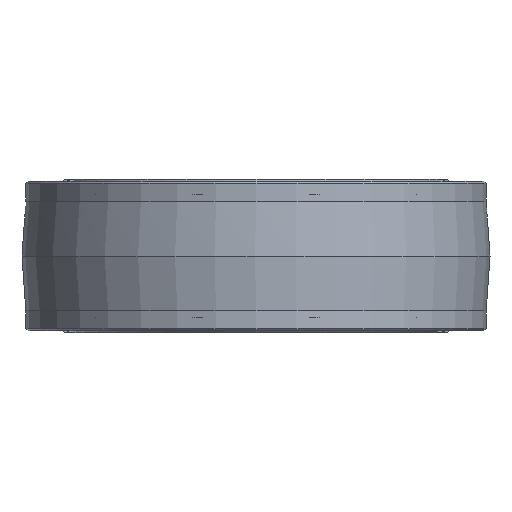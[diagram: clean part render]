
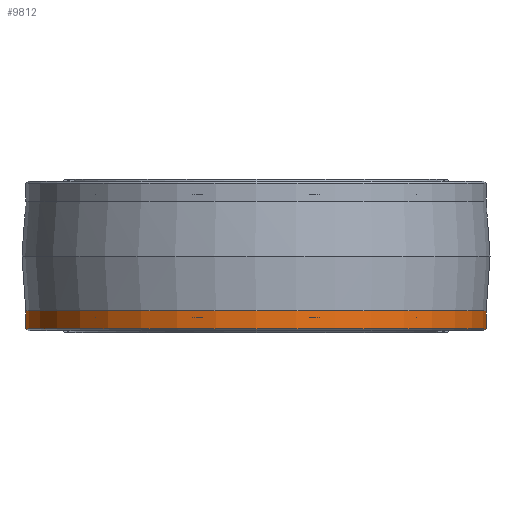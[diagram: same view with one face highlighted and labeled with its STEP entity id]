
A CAD part, front view. The second image highlights one B-rep face of the part: STEP entity #9812.
In plain terms, the highlighted cylindrical face has radius 105 mm (diameter 210 mm), a full revolution.
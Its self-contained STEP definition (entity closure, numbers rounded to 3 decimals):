
#9812=ADVANCED_FACE('BCT_REF_31648',(#11158,#11159),#10568,.T.);
#10568=CYLINDRICAL_SURFACE('',#24515,105.);
#11158=FACE_BOUND('',#12723,.T.);
#11159=FACE_BOUND('',#12724,.T.);
#12723=EDGE_LOOP('',(#16553));
#12724=EDGE_LOOP('',(#16554));
#16553=ORIENTED_EDGE('',*,*,#21755,.F.);
#16554=ORIENTED_EDGE('',*,*,#21754,.T.);
#19542=VERTEX_POINT('',#37947);
#19543=VERTEX_POINT('',#37950);
#21754=EDGE_CURVE('',#19542,#19542,#23086,.T.);
#21755=EDGE_CURVE('BCT_REF_54671',#19543,#19543,#23087,.T.);
#23086=CIRCLE('',#24512,105.);
#23087=CIRCLE('',#24514,105.);
#24512=AXIS2_PLACEMENT_3D('',#37946,#28184,#28185);
#24514=AXIS2_PLACEMENT_3D('',#37949,#28188,#28189);
#24515=AXIS2_PLACEMENT_3D('',#37951,#28190,#28191);
#28184=DIRECTION('',(0.,1.,0.));
#28185=DIRECTION('',(-1.,0.,0.));
#28188=DIRECTION('',(0.,1.,0.));
#28189=DIRECTION('',(-1.,0.,0.));
#28190=DIRECTION('',(0.,1.,0.));
#28191=DIRECTION('',(-1.,0.,0.));
#37946=CARTESIAN_POINT('',(0.,2.,0.));
#37947=CARTESIAN_POINT('',(-105.,2.,0.));
#37949=CARTESIAN_POINT('',(0.,10.05,0.));
#37950=CARTESIAN_POINT('',(-105.,10.05,0.));
#37951=CARTESIAN_POINT('',(0.,28.05,0.));
